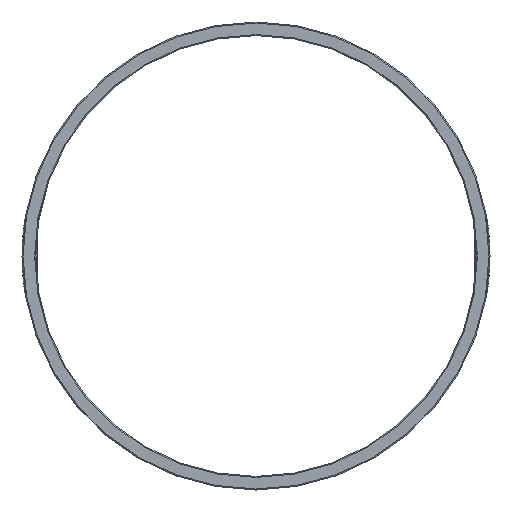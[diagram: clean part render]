
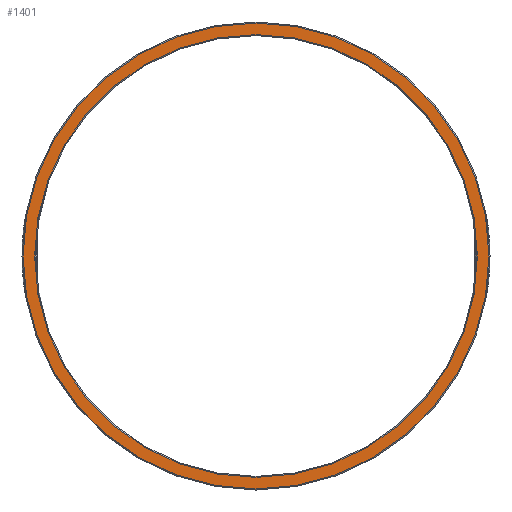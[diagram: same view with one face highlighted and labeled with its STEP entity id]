
A CAD part, left-side view. The second image highlights one B-rep face of the part: STEP entity #1401.
In plain terms, the highlighted planar face has unit normal (-1, 0, 0).
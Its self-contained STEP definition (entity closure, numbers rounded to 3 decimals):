
#1370=CARTESIAN_POINT('',(-30.25,21.1,0.));
#1371=VERTEX_POINT('',#1370);
#1372=CARTESIAN_POINT('',(-30.25,0.0,0.0));
#1373=DIRECTION('',(-1.0,0.0,0.0));
#1374=DIRECTION('',(0.0,-1.0,0.0));
#1375=AXIS2_PLACEMENT_3D('',#1372,#1373,#1374);
#1376=CIRCLE('',#1375,21.1);
#1377=EDGE_CURVE('',#1371,#1371,#1376,.T.);
#1382=CARTESIAN_POINT('',(-30.25,21.65,0.0));
#1383=DIRECTION('',(-1.0,0.0,0.0));
#1384=DIRECTION('',(0.0,0.0,1.0));
#1385=AXIS2_PLACEMENT_3D('',#1382,#1383,#1384);
#1386=PLANE('',#1385);
#1387=CARTESIAN_POINT('',(-30.25,22.2,0.));
#1388=VERTEX_POINT('',#1387);
#1389=CARTESIAN_POINT('',(-30.25,0.0,0.0));
#1390=DIRECTION('',(1.0,0.0,0.0));
#1391=DIRECTION('',(0.0,-1.0,0.0));
#1392=AXIS2_PLACEMENT_3D('',#1389,#1390,#1391);
#1393=CIRCLE('',#1392,22.2);
#1394=EDGE_CURVE('',#1388,#1388,#1393,.T.);
#1395=ORIENTED_EDGE('',*,*,#1394,.F.);
#1396=EDGE_LOOP('',(#1395));
#1397=FACE_OUTER_BOUND('',#1396,.T.);
#1398=ORIENTED_EDGE('',*,*,#1377,.F.);
#1399=EDGE_LOOP('',(#1398));
#1400=FACE_BOUND('',#1399,.T.);
#1401=ADVANCED_FACE('',(#1397,#1400),#1386,.T.);
